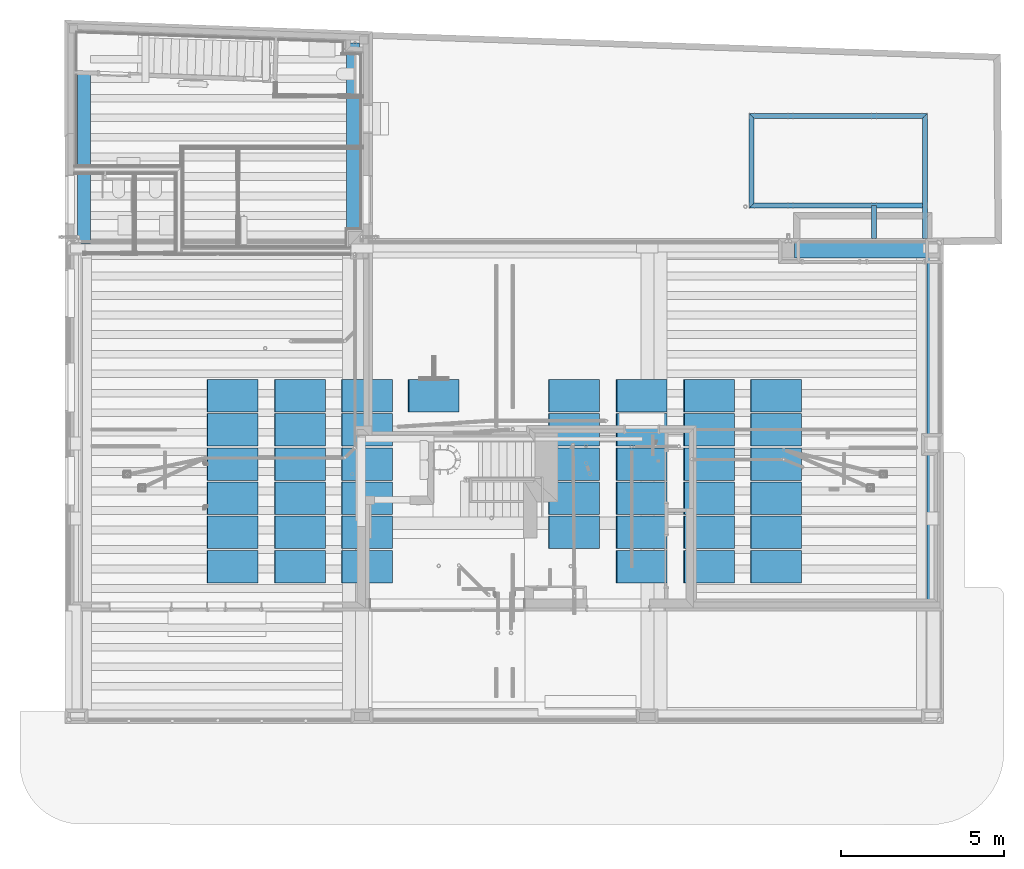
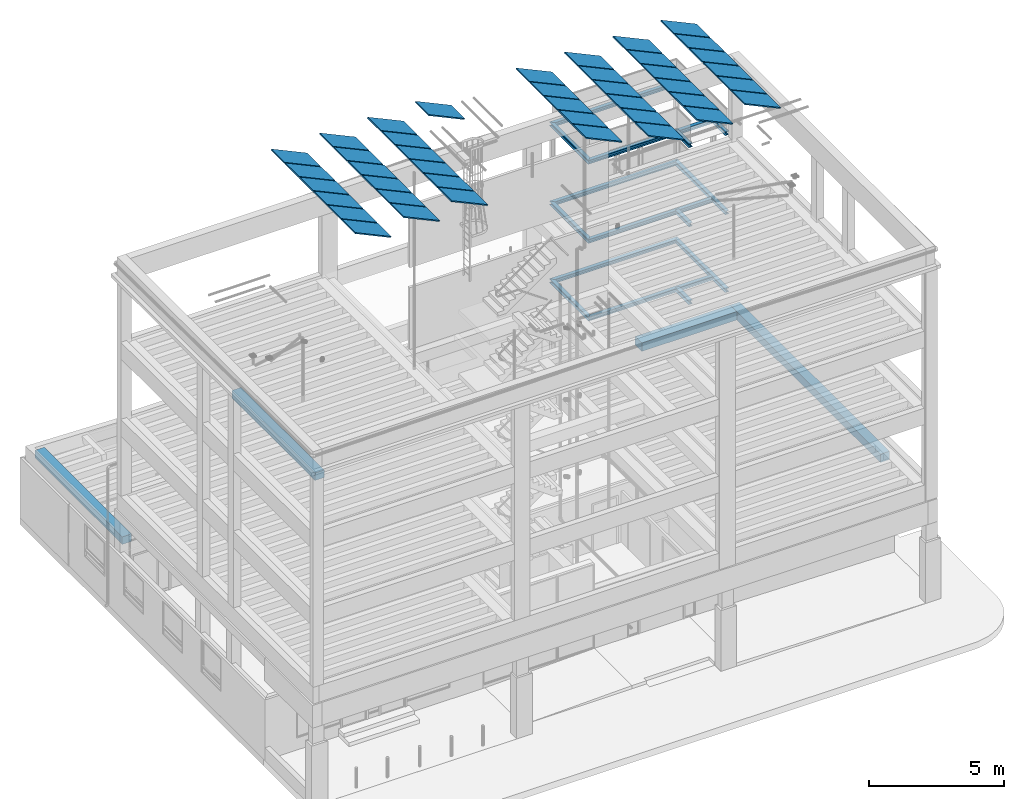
# One storey, part 5 of 106: 42 members, 19 beams.
"""IFC2X3 building model written with IfcOpenShell, lengths in metres."""

from ifc_helpers import new_model, entity, si_unit, converted_unit, derived_unit, money_unit, direction, frame, frame_2d, origin_with_axes, place, context, subcontext, project, spatial, polyline, rectangle, outline, extrude, clip, halfspace, faceted_brep, material, type_object, element, save


model = new_model("IFC2X3")

# Units and contexts
model_context = context("Model", 3, precision=1e-05, world=origin_with_axes(), true_north=direction((0.0, 1.0)))
body_context = subcontext(model_context, "Body", "Model", "MODEL_VIEW", scale=1.0)
ifc_project = project(units=[si_unit("LENGTHUNIT", "METRE"), si_unit("AREAUNIT", "SQUARE_METRE"), si_unit("VOLUMEUNIT", "CUBIC_METRE"), si_unit("ABSORBEDDOSEUNIT", "GRAY"), si_unit("AMOUNTOFSUBSTANCEUNIT", "MOLE"), si_unit("DOSEEQUIVALENTUNIT", "SIEVERT"), si_unit("ELECTRICCAPACITANCEUNIT", "FARAD"), si_unit("ELECTRICCHARGEUNIT", "COULOMB"), si_unit("ELECTRICCONDUCTANCEUNIT", "SIEMENS"), si_unit("ELECTRICCURRENTUNIT", "AMPERE"), si_unit("ELECTRICRESISTANCEUNIT", "OHM"), si_unit("ELECTRICVOLTAGEUNIT", "VOLT"), si_unit("ENERGYUNIT", "JOULE"), si_unit("FORCEUNIT", "NEWTON"), si_unit("FREQUENCYUNIT", "HERTZ"), si_unit("ILLUMINANCEUNIT", "LUX"), si_unit("INDUCTANCEUNIT", "HENRY"), si_unit("LUMINOUSFLUXUNIT", "LUMEN"), si_unit("LUMINOUSINTENSITYUNIT", "CANDELA"), si_unit("MAGNETICFLUXDENSITYUNIT", "TESLA"), si_unit("MAGNETICFLUXUNIT", "WEBER"), si_unit("MASSUNIT", "GRAM"), converted_unit("PLANEANGLEUNIT", "degree", entity("IfcReal", 0.0174532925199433), si_unit("PLANEANGLEUNIT", "RADIAN"), dimensions=[0, 0, 0, 0, 0, 0, 0]), si_unit("POWERUNIT", "WATT"), si_unit("PRESSUREUNIT", "PASCAL"), si_unit("RADIOACTIVITYUNIT", "BECQUEREL"), si_unit("SOLIDANGLEUNIT", "STERADIAN"), si_unit("THERMODYNAMICTEMPERATUREUNIT", "KELVIN"), si_unit("TIMEUNIT", "SECOND"), derived_unit("ACCELERATIONUNIT", [(si_unit("LENGTHUNIT", "METRE"), 1), (si_unit("TIMEUNIT", "SECOND"), -2)]), derived_unit("ANGULARVELOCITYUNIT", [(converted_unit("PLANEANGLEUNIT", "degree", entity("IfcReal", 0.0174532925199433), si_unit("PLANEANGLEUNIT", "RADIAN"), dimensions=[0, 0, 0, 0, 0, 0, 0]), 1), (si_unit("TIMEUNIT", "SECOND"), -1)]), derived_unit("CURVATUREUNIT", [(converted_unit("PLANEANGLEUNIT", "degree", entity("IfcReal", 0.0174532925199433), si_unit("PLANEANGLEUNIT", "RADIAN"), dimensions=[0, 0, 0, 0, 0, 0, 0]), 1), (si_unit("LENGTHUNIT", "METRE"), -1)]), derived_unit("DYNAMICVISCOSITYUNIT", [(si_unit("PRESSUREUNIT", "PASCAL"), 1), (si_unit("TIMEUNIT", "SECOND"), 1)]), derived_unit("HEATFLUXDENSITYUNIT", [(si_unit("POWERUNIT", "WATT"), 1), (si_unit("LENGTHUNIT", "METRE"), -2)]), derived_unit("HEATINGVALUEUNIT", [(si_unit("ENERGYUNIT", "JOULE"), 1), (si_unit("MASSUNIT", "GRAM"), -1)]), derived_unit("INTEGERCOUNTRATEUNIT", [(si_unit("TIMEUNIT", "SECOND"), -1)]), derived_unit("IONCONCENTRATIONUNIT", [(si_unit("MASSUNIT", "GRAM"), 1), (si_unit("VOLUMEUNIT", "CUBIC_METRE"), -1)]), derived_unit("ISOTHERMALMOISTURECAPACITYUNIT", [(si_unit("VOLUMEUNIT", "CUBIC_METRE"), 1), (si_unit("MASSUNIT", "GRAM"), -1)]), derived_unit("KINEMATICVISCOSITYUNIT", [(si_unit("AREAUNIT", "SQUARE_METRE"), 1), (si_unit("TIMEUNIT", "SECOND"), -1)]), derived_unit("LINEARFORCEUNIT", [(si_unit("FORCEUNIT", "NEWTON"), 1), (si_unit("LENGTHUNIT", "METRE"), -1)]), derived_unit("LINEARMOMENTUNIT", [(si_unit("FORCEUNIT", "NEWTON"), 1), (si_unit("LENGTHUNIT", "METRE"), -1)]), derived_unit("LINEARSTIFFNESSUNIT", [(si_unit("FORCEUNIT", "NEWTON"), 1), (si_unit("LENGTHUNIT", "METRE"), -1)]), derived_unit("LINEARVELOCITYUNIT", [(si_unit("LENGTHUNIT", "METRE"), 1), (si_unit("TIMEUNIT", "SECOND"), -1)]), derived_unit("LUMINOUSINTENSITYDISTRIBUTIONUNIT", [(si_unit("LUMINOUSINTENSITYUNIT", "CANDELA"), 1), (si_unit("LUMINOUSFLUXUNIT", "LUMEN"), -1)]), derived_unit("MASSDENSITYUNIT", [(si_unit("MASSUNIT", "GRAM"), 1), (si_unit("VOLUMEUNIT", "CUBIC_METRE"), -1)]), derived_unit("MASSFLOWRATEUNIT", [(si_unit("MASSUNIT", "GRAM"), 1), (si_unit("TIMEUNIT", "SECOND"), -1)]), derived_unit("MASSPERLENGTHUNIT", [(si_unit("MASSUNIT", "GRAM"), 1), (si_unit("LENGTHUNIT", "METRE"), -1)]), derived_unit("MODULUSOFELASTICITYUNIT", [(si_unit("FORCEUNIT", "NEWTON"), 1), (si_unit("AREAUNIT", "SQUARE_METRE"), -1)]), derived_unit("MODULUSOFLINEARSUBGRADEREACTIONUNIT", [(si_unit("FORCEUNIT", "NEWTON"), 1), (si_unit("LENGTHUNIT", "METRE"), -2)]), derived_unit("MODULUSOFROTATIONALSUBGRADEREACTIONUNIT", [(si_unit("FORCEUNIT", "NEWTON"), 1), (si_unit("LENGTHUNIT", "METRE"), 1)]), derived_unit("MODULUSOFSUBGRADEREACTIONUNIT", [(si_unit("FORCEUNIT", "NEWTON"), 1), (si_unit("VOLUMEUNIT", "CUBIC_METRE"), -1)]), derived_unit("MOISTUREDIFFUSIVITYUNIT", [(si_unit("VOLUMEUNIT", "CUBIC_METRE"), 1), (si_unit("TIMEUNIT", "SECOND"), -1)]), derived_unit("MOLECULARWEIGHTUNIT", [(si_unit("MASSUNIT", "GRAM"), 1), (si_unit("AMOUNTOFSUBSTANCEUNIT", "MOLE"), -1)]), derived_unit("PLANARFORCEUNIT", [(si_unit("FORCEUNIT", "NEWTON"), 1), (si_unit("LENGTHUNIT", "METRE"), -2)]), derived_unit("ROTATIONALFREQUENCYUNIT", [(si_unit("TIMEUNIT", "SECOND"), -1)]), derived_unit("ROTATIONALMASSUNIT", [(si_unit("MASSUNIT", "GRAM"), 1), (si_unit("LENGTHUNIT", "METRE"), 2)]), derived_unit("ROTATIONALSTIFFNESSUNIT", [(si_unit("FORCEUNIT", "NEWTON"), 1), (si_unit("LENGTHUNIT", "METRE"), 1), (converted_unit("PLANEANGLEUNIT", "degree", entity("IfcReal", 0.0174532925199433), si_unit("PLANEANGLEUNIT", "RADIAN"), dimensions=[0, 0, 0, 0, 0, 0, 0]), -1)]), derived_unit("SECTIONAREAINTEGRALUNIT", [(si_unit("LENGTHUNIT", "METRE"), 5)]), derived_unit("SECTIONMODULUSUNIT", [(si_unit("LENGTHUNIT", "METRE"), 3)]), derived_unit("SHEARMODULUSUNIT", [(si_unit("FORCEUNIT", "NEWTON"), 1), (si_unit("AREAUNIT", "SQUARE_METRE"), -1)]), derived_unit("SOUNDPOWERUNIT", [(si_unit("ENERGYUNIT", "JOULE"), 1), (si_unit("TIMEUNIT", "SECOND"), -1)]), derived_unit("SPECIFICHEATCAPACITYUNIT", [(si_unit("FORCEUNIT", "NEWTON"), 1), (si_unit("MASSUNIT", "GRAM"), -1), (si_unit("THERMODYNAMICTEMPERATUREUNIT", "KELVIN"), -1)]), derived_unit("TEMPERATUREGRADIENTUNIT", [(si_unit("THERMODYNAMICTEMPERATUREUNIT", "KELVIN"), 1), (si_unit("LENGTHUNIT", "METRE"), -1)]), derived_unit("THERMALADMITTANCEUNIT", [(si_unit("POWERUNIT", "WATT"), 1), (si_unit("AREAUNIT", "SQUARE_METRE"), -1), (si_unit("THERMODYNAMICTEMPERATUREUNIT", "KELVIN"), -1)]), derived_unit("THERMALCONDUCTANCEUNIT", [(si_unit("POWERUNIT", "WATT"), 1), (si_unit("LENGTHUNIT", "METRE"), -1), (si_unit("THERMODYNAMICTEMPERATUREUNIT", "KELVIN"), -1)]), derived_unit("THERMALEXPANSIONCOEFFICIENTUNIT", [(si_unit("THERMODYNAMICTEMPERATUREUNIT", "KELVIN"), -1)]), derived_unit("THERMALRESISTANCEUNIT", [(si_unit("AREAUNIT", "SQUARE_METRE"), 1), (si_unit("POWERUNIT", "WATT"), -1)]), derived_unit("THERMALTRANSMITTANCEUNIT", [(si_unit("POWERUNIT", "WATT"), 1), (si_unit("AREAUNIT", "SQUARE_METRE"), -1), (si_unit("THERMODYNAMICTEMPERATUREUNIT", "KELVIN"), -1)]), derived_unit("TORQUEUNIT", [(si_unit("FORCEUNIT", "NEWTON"), 1), (si_unit("LENGTHUNIT", "METRE"), 1)]), derived_unit("VAPORPERMEABILITYUNIT", [(si_unit("MASSUNIT", "GRAM"), 1), (si_unit("TIMEUNIT", "SECOND"), -1)]), derived_unit("VOLUMETRICFLOWRATEUNIT", [(si_unit("VOLUMEUNIT", "CUBIC_METRE"), 1), (si_unit("TIMEUNIT", "SECOND"), -1)]), derived_unit("WARPINGCONSTANTUNIT", [(si_unit("LENGTHUNIT", "METRE"), 6)]), derived_unit("WARPINGMOMENTUNIT", [(si_unit("FORCEUNIT", "NEWTON"), 1), (si_unit("LENGTHUNIT", "METRE"), 2)]), money_unit("GBP")], contexts=[model_context])

# Site, building, storey
site_placement = place(None, origin_with_axes())
site = spatial("IfcSite", under=ifc_project, at=site_placement, Name="Site", CompositionType="ELEMENT")
building_placement = place(site_placement, origin_with_axes())
building = spatial("IfcBuilding", under=site, at=building_placement, Name="Building01", CompositionType="ELEMENT")
storey_placement = place(building_placement, origin_with_axes())
storey = spatial("IfcBuildingStorey", under=building, at=storey_placement, Name="GF", CompositionType="ELEMENT", Elevation=0.0)

# Beams
ifc_material_1 = material(Name="A_BSUK_Beams_Steel")
beam_type_1 = type_object("IfcBeamType", Name="A-Beams-Steel", PredefinedType="BEAM")
beam_1_placement = place(storey_placement, frame((26.405835, 15.994581, 4.894267), z_axis=(-1.0, 0.0, 0.0), x_axis=(0.0, -1.0, 0.0)))
element("IfcBeam", 1, at=beam_1_placement, inside=storey, type_object=beam_type_1, material=ifc_material_1, Name="external", ObjectType="A-Beams-Steel", context=body_context, shape_type="Clipping", body=[
    clip(extrude(outline(polyline([(0.1574, 0.0), (0.1574, 0.0157), (0.0842, 0.0157), (0.0842, 0.1545), (0.1574, 0.1545), (0.1574, 0.1702), (0.0, 0.1702), (0.0, 0.1545), (0.0732, 0.1545), (0.0732, 0.0157), (0.0, 0.0157), (0.0, 0.0), (0.1574, 0.0)])), origin_with_axes(), (0.0, 0.0, 1.0), 5.394401), halfspace(frame((-2.618501, 0.0, 2.618501), z_axis=(0.70710678, 0.0, -0.70710678), x_axis=(0.0, 1.0, 0.0)), True)),
])
for number, where, z_axis, x_axis, name in (
    (2, (26.490035, 18.742181, 4.894267), (-1.0, 0.0, 0.0), (0.0, -1.0, 0.0), "external"),
    (3, (26.490035, 18.742181, 12.000813), (-1.0, 0.0, 0.0), (0.0, -1.0, 0.0), "external"),
):
    element("IfcBeam", number, at=place(storey_placement, frame(where, z_axis=z_axis, x_axis=x_axis)), inside=storey, type_object=beam_type_1, material=ifc_material_1, Name=name, ObjectType="A-Beams-Steel", context=body_context, shape_type="Clipping", body=[
        clip(clip(extrude(outline(polyline([(0.1574, 0.0), (0.1574, 0.0157), (0.0842, 0.0157), (0.0842, 0.1545), (0.1574, 0.1545), (0.1574, 0.1702), (0.0, 0.1702), (0.0, 0.1545), (0.0732, 0.1545), (0.0732, 0.0157), (0.0, 0.0157), (0.0, 0.0), (0.1574, 0.0)])), origin_with_axes(), (0.0, 0.0, 1.0), 5.478601), halfspace(frame((0.0, 0.0, 0.0), z_axis=(-0.70710678, 0.0, 0.70710678), x_axis=(0.0, -1.0, 0.0)), True)), halfspace(frame((2.739301, 0.0, 2.739301), z_axis=(-0.70710678, 0.0, -0.70710678), x_axis=(0.0, -1.0, 0.0)), True)),
    ])
beam_2_placement = place(storey_placement, frame((21.011434, 18.742181, 4.894267), z_axis=(0.0, -1.0, 0.0), x_axis=(1.0, 0.0, 0.0)))
element("IfcBeam", 4, at=beam_2_placement, inside=storey, type_object=beam_type_1, material=ifc_material_1, Name="external", ObjectType="A-Beams-Steel", context=body_context, shape_type="Clipping", body=[
    clip(clip(extrude(outline(polyline([(0.1574, 0.0), (0.1574, 0.0157), (0.0842, 0.0157), (0.0842, 0.1545), (0.1574, 0.1545), (0.1574, 0.1702), (0.0, 0.1702), (0.0, 0.1545), (0.0732, 0.1545), (0.0732, 0.0157), (0.0, 0.0157), (0.0, 0.0), (0.1574, 0.0)])), origin_with_axes(), (0.0, 0.0, 1.0), 2.905), halfspace(frame((0.0, 0.0, 0.0), z_axis=(-0.70710678, 0.0, 0.70710678), x_axis=(0.0, -1.0, 0.0)), True)), halfspace(frame((1.4525, 0.0, 1.4525), z_axis=(-0.70710678, 0.0, -0.70710678), x_axis=(-0.70710678, 0.0, 0.70710678)), True)),
])
beam_3_placement = place(storey_placement, frame((26.332635, 18.742181, 12.000813), z_axis=(0.0, -1.0, 0.0), x_axis=(1.0, 0.0, 0.0)))
element("IfcBeam", 5, at=beam_3_placement, inside=storey, type_object=beam_type_1, material=ifc_material_1, Name="external", ObjectType="A-Beams-Steel", context=body_context, shape_type="Clipping", body=[
    clip(extrude(outline(polyline([(0.1574, 0.0), (0.1574, 0.0157), (0.0842, 0.0157), (0.0842, 0.1545), (0.1574, 0.1545), (0.1574, 0.1702), (0.0, 0.1702), (0.0, 0.1545), (0.0732, 0.1545), (0.0732, 0.0157), (0.0, 0.0157), (0.0, 0.0), (0.1574, 0.0)])), origin_with_axes(), (0.0, 0.0, 1.0), 3.842181), halfspace(frame((0.0787, 0.0, 0.0787), z_axis=(0.70710678, 0.0, 0.70710678), x_axis=(0.0, 1.0, 0.0)), True)),
])
for number, where, z_axis, x_axis, name in (
    (6, (24.769835, 15.910381, 8.417242), (0.0, -1.0, 0.0), (1.0, 0.0, 0.0), "external"),
    (7, (24.769835, 15.910381, 12.000813), (0.0, -1.0, 0.0), (1.0, 0.0, 0.0), "external"),
    (8, (24.769835, 15.910381, 4.894267), (0.0, -1.0, 0.0), (1.0, 0.0, 0.0), "external"),
):
    element("IfcBeam", number, at=place(storey_placement, frame(where, z_axis=z_axis, x_axis=x_axis)), inside=storey, type_object=beam_type_1, material=ifc_material_1, Name=name, ObjectType="A-Beams-Steel", context=body_context, shape_type="SweptSolid", body=[
        extrude(outline(polyline([(0.1574, 0.0), (0.1574, 0.0157), (0.0842, 0.0157), (0.0842, 0.1545), (0.1574, 0.1545), (0.1574, 0.1702), (0.0, 0.1702), (0.0, 0.1545), (0.0732, 0.1545), (0.0732, 0.0157), (0.0, 0.0157), (0.0, 0.0), (0.1574, 0.0)])), origin_with_axes(), (0.0, 0.0, 1.0), 1.010381),
    ])
beam_4_placement = place(storey_placement, frame((21.011434, 18.742181, 8.417242), z_axis=(0.0, -1.0, 0.0), x_axis=(1.0, 0.0, 0.0)))
element("IfcBeam", 9, at=beam_4_placement, inside=storey, type_object=beam_type_1, material=ifc_material_1, Name="external", ObjectType="A-Beams-Steel", context=body_context, shape_type="Clipping", body=[
    clip(clip(extrude(outline(polyline([(0.1574, 0.0), (0.1574, 0.0157), (0.0842, 0.0157), (0.0842, 0.1545), (0.1574, 0.1545), (0.1574, 0.1702), (0.0, 0.1702), (0.0, 0.1545), (0.0732, 0.1545), (0.0732, 0.0157), (0.0, 0.0157), (0.0, 0.0), (0.1574, 0.0)])), origin_with_axes(), (0.0, 0.0, 1.0), 2.905), halfspace(frame((1.4525, 0.0, 1.4525), z_axis=(-0.70710678, 0.0, -0.70710678), x_axis=(0.0, -1.0, 0.0)), True)), halfspace(frame((0.0, 0.0, 0.0), z_axis=(-0.70710678, 0.0, 0.70710678), x_axis=(0.0, -1.0, 0.0)), True)),
])
beam_5_placement = place(storey_placement, frame((21.011434, 18.742181, 12.000813), z_axis=(0.0, -1.0, 0.0), x_axis=(1.0, 0.0, 0.0)))
element("IfcBeam", 10, at=beam_5_placement, inside=storey, type_object=beam_type_1, material=ifc_material_1, Name="external", ObjectType="A-Beams-Steel", context=body_context, shape_type="Clipping", body=[
    clip(clip(extrude(outline(polyline([(0.1574, 0.0), (0.1574, 0.0157), (0.0842, 0.0157), (0.0842, 0.1545), (0.1574, 0.1545), (0.1574, 0.1702), (0.0, 0.1702), (0.0, 0.1545), (0.0732, 0.1545), (0.0732, 0.0157), (0.0, 0.0157), (0.0, 0.0), (0.1574, 0.0)])), origin_with_axes(), (0.0, 0.0, 1.0), 2.905), halfspace(frame((0.0, 0.0, 0.0), z_axis=(-0.70710678, 0.0, 0.70710678), x_axis=(0.0, -1.0, 0.0)), True)), halfspace(frame((1.4525, 0.0, 1.4525), z_axis=(-0.70710678, 0.0, -0.70710678), x_axis=(-0.70710678, 0.0, 0.70710678)), True)),
])
beam_6_placement = place(storey_placement, frame((26.332635, 18.742181, 8.417242), z_axis=(0.0, -1.0, 0.0), x_axis=(1.0, 0.0, 0.0)))
element("IfcBeam", 11, at=beam_6_placement, inside=storey, type_object=beam_type_1, material=ifc_material_1, Name="external", ObjectType="A-Beams-Steel", context=body_context, shape_type="Clipping", body=[
    clip(extrude(outline(polyline([(0.1574, 0.0), (0.1574, 0.0157), (0.0842, 0.0157), (0.0842, 0.1545), (0.1574, 0.1545), (0.1574, 0.1702), (0.0, 0.1702), (0.0, 0.1545), (0.0732, 0.1545), (0.0732, 0.0157), (0.0, 0.0157), (0.0, 0.0), (0.1574, 0.0)])), origin_with_axes(), (0.0, 0.0, 1.0), 3.842181), halfspace(frame((0.0787, 0.0, 0.0787), z_axis=(0.70710678, 0.0, 0.70710678), x_axis=(0.70710678, 0.0, -0.70710678)), True)),
])
beam_7_placement = place(storey_placement, frame((26.332635, 18.742181, 4.894267), z_axis=(0.0, -1.0, 0.0), x_axis=(1.0, 0.0, 0.0)))
element("IfcBeam", 12, at=beam_7_placement, inside=storey, type_object=beam_type_1, material=ifc_material_1, Name="external", ObjectType="A-Beams-Steel", context=body_context, shape_type="Clipping", body=[
    clip(extrude(outline(polyline([(0.1574, 0.0), (0.1574, 0.0157), (0.0842, 0.0157), (0.0842, 0.1545), (0.1574, 0.1545), (0.1574, 0.1702), (0.0, 0.1702), (0.0, 0.1545), (0.0732, 0.1545), (0.0732, 0.0157), (0.0, 0.0157), (0.0, 0.0), (0.1574, 0.0)])), origin_with_axes(), (0.0, 0.0, 1.0), 3.842181), halfspace(frame((0.0787, 0.0, 0.0787), z_axis=(0.70710678, 0.0, 0.70710678), x_axis=(0.0, 1.0, 0.0)), True)),
])
beam_8_placement = place(storey_placement, frame((26.490035, 18.742181, 8.417242), z_axis=(-1.0, 0.0, 0.0), x_axis=(0.0, -1.0, 0.0)))
element("IfcBeam", 13, at=beam_8_placement, inside=storey, type_object=beam_type_1, material=ifc_material_1, Name="external", ObjectType="A-Beams-Steel", context=body_context, shape_type="Clipping", body=[
    clip(clip(extrude(outline(polyline([(0.1574, 0.0), (0.1574, 0.0157), (0.0842, 0.0157), (0.0842, 0.1545), (0.1574, 0.1545), (0.1574, 0.1702), (0.0, 0.1702), (0.0, 0.1545), (0.0732, 0.1545), (0.0732, 0.0157), (0.0, 0.0157), (0.0, 0.0), (0.1574, 0.0)])), origin_with_axes(), (0.0, 0.0, 1.0), 5.478601), halfspace(frame((2.739301, 0.0, 2.739301), z_axis=(-0.70710678, 0.0, -0.70710678), x_axis=(0.0, -1.0, 0.0)), True)), halfspace(frame((0.0, 0.0, 0.0), z_axis=(-0.70710678, 0.0, 0.70710678), x_axis=(0.0, -1.0, 0.0)), True)),
])
for number, where, z_axis, x_axis, name in (
    (14, (26.405835, 15.994581, 8.417242), (-1.0, 0.0, 0.0), (0.0, -1.0, 0.0), "external"),
    (15, (26.405835, 15.994581, 12.000813), (-1.0, 0.0, 0.0), (0.0, -1.0, 0.0), "external"),
):
    element("IfcBeam", number, at=place(storey_placement, frame(where, z_axis=z_axis, x_axis=x_axis)), inside=storey, type_object=beam_type_1, material=ifc_material_1, Name=name, ObjectType="A-Beams-Steel", context=body_context, shape_type="Clipping", body=[
        clip(extrude(outline(polyline([(0.1574, 0.0), (0.1574, 0.0157), (0.0842, 0.0157), (0.0842, 0.1545), (0.1574, 0.1545), (0.1574, 0.1702), (0.0, 0.1702), (0.0, 0.1545), (0.0732, 0.1545), (0.0732, 0.0157), (0.0, 0.0157), (0.0, 0.0), (0.1574, 0.0)])), origin_with_axes(), (0.0, 0.0, 1.0), 5.394401), halfspace(frame((-2.618501, 0.0, 2.618501), z_axis=(0.70710678, 0.0, -0.70710678), x_axis=(0.0, 1.0, 0.0)), True)),
    ])
ifc_material_2 = material(Name="S_BSUK_Beams_PrecastConcrete")
beam_type_2 = type_object("IfcBeamType", Name="S-Beams-PrecastConcrete", PredefinedType="BEAM")
beam_9_placement = place(storey_placement, frame((26.48, 14.8, 3.97), z_axis=(0.0, -1.0, 0.0), x_axis=(1.0, 0.0, 0.0)))
element("IfcBeam", 16, at=beam_9_placement, inside=storey, type_object=beam_type_2, material=ifc_material_2, Name="S-Beams-PrecastConcrete", ObjectType="S-Beams-PrecastConcrete", context=body_context, shape_type="SweptSolid", body=[
    extrude(rectangle(XDim=0.38, YDim=0.4, at=frame_2d((0.2, 0.19), x_axis=(0.0, 1.0))), origin_with_axes(), (0.0, 0.0, 1.0), 11.153538),
])
beam_10_placement = place(storey_placement, frame((26.48, 14.799999, 3.97), z_axis=(-1.0, 0.0, 0.0), x_axis=(0.0, -1.0, 0.0)))
element("IfcBeam", 17, at=beam_10_placement, inside=storey, type_object=beam_type_2, material=ifc_material_2, Name="S-Beams-PrecastConcrete", ObjectType="S-Beams-PrecastConcrete", context=body_context, shape_type="SweptSolid", body=[
    extrude(rectangle(XDim=0.38, YDim=0.5, at=frame_2d((0.25, 0.19), x_axis=(0.0, 1.0))), origin_with_axes(), (0.0, 0.0, 1.0), 4.07),
])
beam_11_placement = place(storey_placement, frame((0.390679, 21.207883, 2.675), z_axis=(0.0, -1.0, 0.0), x_axis=(1.0, 0.0, 0.0)))
element("IfcBeam", 18, at=beam_11_placement, inside=storey, type_object=beam_type_2, material=ifc_material_2, Name="S-Beams-PrecastConcrete", ObjectType="S-Beams-PrecastConcrete", context=body_context, shape_type="SweptSolid", body=[
    extrude(rectangle(XDim=0.34, YDim=0.4, at=frame_2d((0.2, 0.17), x_axis=(0.0, 1.0))), origin_with_axes(), (0.0, 0.0, 1.0), 6.477883),
])
beam_12_placement = place(storey_placement, frame((8.653038, 20.901785, 2.675), z_axis=(0.0, -1.0, 0.0), x_axis=(1.0, 0.0, 0.0)))
element("IfcBeam", 19, at=beam_12_placement, inside=storey, type_object=beam_type_2, material=ifc_material_2, Name="S-Beams-PrecastConcrete", ObjectType="S-Beams-PrecastConcrete", context=body_context, shape_type="SweptSolid", body=[
    extrude(rectangle(XDim=0.34, YDim=0.4, at=frame_2d((0.2, 0.17), x_axis=(0.0, 1.0))), origin_with_axes(), (0.0, 0.0, 1.0), 6.171785),
])

# Members
ifc_material_3 = material(Name="A_BSUK_BasePlates")
member_type = type_object("IfcMemberType", Name="A-Baseplate", PredefinedType="PLATE")
for number, where, z_axis, x_axis, name in (
    (20, (8.51151, 9.5735, 21.715851), (-0.42261826, 0.0, -0.90630779), (-0.90630779, 0.0, 0.42261826), "Solar panel"),
    (21, (6.458327, 9.5735, 21.715851), (-0.42261826, 0.0, -0.90630779), (-0.90630779, 0.0, 0.42261826), "Solar panel"),
    (22, (4.384012, 9.5735, 21.715851), (-0.42261826, 0.0, -0.90630779), (-0.90630779, 0.0, 0.42261826), "Solar panel"),
    (23, (8.51151, 8.524048, 21.715851), (-0.42261826, 0.0, -0.90630779), (-0.90630779, 0.0, 0.42261826), "Solar panel"),
    (24, (6.458327, 8.524048, 21.715851), (-0.42261826, 0.0, -0.90630779), (-0.90630779, 0.0, 0.42261826), "Solar panel"),
    (25, (4.384012, 8.524048, 21.715851), (-0.42261826, 0.0, -0.90630779), (-0.90630779, 0.0, 0.42261826), "Solar panel"),
    (26, (8.51151, 7.474596, 21.715851), (-0.42261826, 0.0, -0.90630779), (-0.90630779, 0.0, 0.42261826), "Solar panel"),
    (27, (6.458327, 7.474596, 21.715851), (-0.42261826, 0.0, -0.90630779), (-0.90630779, 0.0, 0.42261826), "Solar panel"),
    (28, (4.384012, 7.474596, 21.715851), (-0.42261826, 0.0, -0.90630779), (-0.90630779, 0.0, 0.42261826), "Solar panel"),
    (29, (8.51151, 6.425145, 21.715851), (-0.42261826, 0.0, -0.90630779), (-0.90630779, 0.0, 0.42261826), "Solar panel"),
    (30, (6.458327, 6.425145, 21.715851), (-0.42261826, 0.0, -0.90630779), (-0.90630779, 0.0, 0.42261826), "Solar panel"),
    (31, (4.384012, 6.425145, 21.715851), (-0.42261826, 0.0, -0.90630779), (-0.90630779, 0.0, 0.42261826), "Solar panel"),
    (32, (8.51151, 5.375693, 21.715851), (-0.42261826, 0.0, -0.90630779), (-0.90630779, 0.0, 0.42261826), "Solar panel"),
    (33, (6.458327, 5.375693, 21.715851), (-0.42261826, 0.0, -0.90630779), (-0.90630779, 0.0, 0.42261826), "Solar panel"),
    (34, (4.384012, 5.375693, 21.715851), (-0.42261826, 0.0, -0.90630779), (-0.90630779, 0.0, 0.42261826), "Solar panel"),
    (35, (8.51151, 4.326241, 21.715851), (-0.42261826, 0.0, -0.90630779), (-0.90630779, 0.0, 0.42261826), "Solar panel"),
    (36, (6.458327, 4.326241, 21.715851), (-0.42261826, 0.0, -0.90630779), (-0.90630779, 0.0, 0.42261826), "Solar panel"),
    (37, (4.384012, 4.326241, 21.715851), (-0.42261826, 0.0, -0.90630779), (-0.90630779, 0.0, 0.42261826), "Solar panel"),
    (38, (21.075265, 9.5735, 21.715851), (-0.42261826, 0.0, -0.90630779), (-0.90630779, 0.0, 0.42261826), "Solar panel"),
    (39, (19.022082, 9.5735, 21.715851), (-0.42261826, 0.0, -0.90630779), (-0.90630779, 0.0, 0.42261826), "Solar panel"),
    (40, (16.947768, 9.5735, 21.715851), (-0.42261826, 0.0, -0.90630779), (-0.90630779, 0.0, 0.42261826), "Solar panel"),
    (41, (21.075265, 8.524048, 21.715851), (-0.42261826, 0.0, -0.90630779), (-0.90630779, 0.0, 0.42261826), "Solar panel"),
    (42, (19.022082, 8.524048, 21.715851), (-0.42261826, 0.0, -0.90630779), (-0.90630779, 0.0, 0.42261826), "Solar panel"),
    (43, (16.947768, 8.524048, 21.715851), (-0.42261826, 0.0, -0.90630779), (-0.90630779, 0.0, 0.42261826), "Solar panel"),
    (44, (21.075265, 7.474596, 21.715851), (-0.42261826, 0.0, -0.90630779), (-0.90630779, 0.0, 0.42261826), "Solar panel"),
    (45, (19.022082, 7.474596, 21.715851), (-0.42261826, 0.0, -0.90630779), (-0.90630779, 0.0, 0.42261826), "Solar panel"),
    (46, (16.947768, 7.474596, 21.715851), (-0.42261826, 0.0, -0.90630779), (-0.90630779, 0.0, 0.42261826), "Solar panel"),
    (47, (21.075265, 6.425145, 21.715851), (-0.42261826, 0.0, -0.90630779), (-0.90630779, 0.0, 0.42261826), "Solar panel"),
    (48, (19.022082, 6.425145, 21.715851), (-0.42261826, 0.0, -0.90630779), (-0.90630779, 0.0, 0.42261826), "Solar panel"),
    (49, (16.947768, 6.425145, 21.715851), (-0.42261826, 0.0, -0.90630779), (-0.90630779, 0.0, 0.42261826), "Solar panel"),
    (50, (21.075265, 5.375693, 21.715851), (-0.42261826, 0.0, -0.90630779), (-0.90630779, 0.0, 0.42261826), "Solar panel"),
    (51, (19.022082, 5.375693, 21.715851), (-0.42261826, 0.0, -0.90630779), (-0.90630779, 0.0, 0.42261826), "Solar panel"),
    (52, (16.947768, 5.375693, 21.715851), (-0.42261826, 0.0, -0.90630779), (-0.90630779, 0.0, 0.42261826), "Solar panel"),
    (53, (21.075265, 4.326241, 21.715851), (-0.42261826, 0.0, -0.90630779), (-0.90630779, 0.0, 0.42261826), "Solar panel"),
    (54, (19.022082, 4.326241, 21.715851), (-0.42261826, 0.0, -0.90630779), (-0.90630779, 0.0, 0.42261826), "Solar panel"),
    (55, (16.947768, 4.326241, 21.715851), (-0.42261826, 0.0, -0.90630779), (-0.90630779, 0.0, 0.42261826), "Solar panel"),
    (56, (14.873454, 9.5735, 21.715851), (-0.42261826, 0.0, -0.90630779), (-0.90630779, 0.0, 0.42261826), "Solar panel"),
    (57, (14.873454, 8.524048, 21.715851), (-0.42261826, 0.0, -0.90630779), (-0.90630779, 0.0, 0.42261826), "Solar panel"),
    (58, (14.873454, 7.474596, 21.715851), (-0.42261826, 0.0, -0.90630779), (-0.90630779, 0.0, 0.42261826), "Solar panel"),
    (59, (14.873454, 6.425145, 21.715851), (-0.42261826, 0.0, -0.90630779), (-0.90630779, 0.0, 0.42261826), "Solar panel"),
    (60, (14.873454, 5.375693, 21.715851), (-0.42261826, 0.0, -0.90630779), (-0.90630779, 0.0, 0.42261826), "Solar panel"),
    (61, (10.564693, 9.5735, 21.715851), (-0.42261826, 0.0, -0.90630779), (-0.90630779, 0.0, 0.42261826), "Solar panel"),
):
    element("IfcMember", number, at=place(storey_placement, frame(where, z_axis=z_axis, x_axis=x_axis)), inside=storey, type_object=member_type, material=ifc_material_3, Name=name, ObjectType="A-Baseplate", context=body_context, shape_type="Brep", body=[
        faceted_brep([(0.0, 0.0, 0.050001), (0.0, 0.0, 1e-06), (0.0, 1.0, 1e-06), (0.0, 1.0, 0.050001), (-1.7, 1.0, 0.050001), (-1.7, 1.0, 1e-06), (-1.7, 0.0, 1e-06), (-1.7, 0.0, 0.050001)], [[[0, 1, 2, 3]], [[4, 5, 6, 7]], [[3, 2, 5, 4]], [[3, 4, 7, 0]], [[7, 6, 1, 0]], [[1, 6, 5, 2]]]),
    ])

save(model, "model.ifc")
